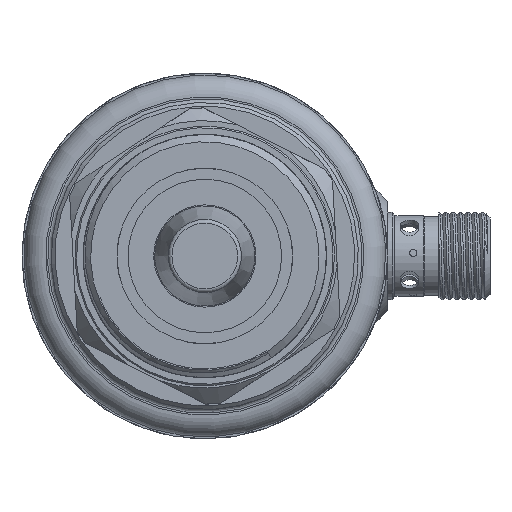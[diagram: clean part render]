
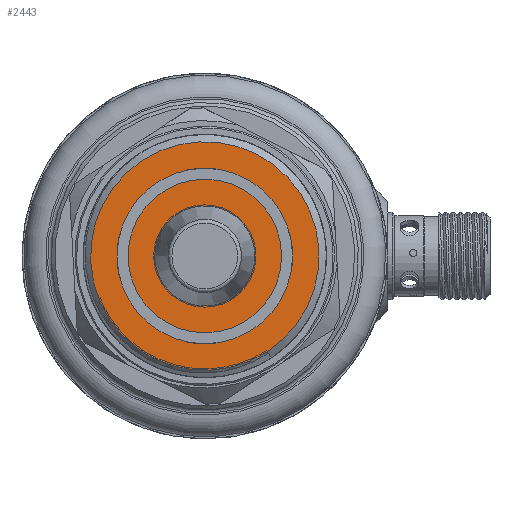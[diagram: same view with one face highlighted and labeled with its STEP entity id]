
A CAD part, front view. The second image highlights one B-rep face of the part: STEP entity #2443.
In plain terms, the highlighted planar face has unit normal (0, -1, 0) as drawn and (-1, 0, 0) by its records, which use the part's own axes.
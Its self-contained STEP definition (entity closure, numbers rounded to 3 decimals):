
#437 = AXIS2_PLACEMENT_3D ( 'NONE', #4142, #1845, #8392 ) ;
#467 = EDGE_LOOP ( 'NONE', ( #7078 ) ) ;
#474 = DIRECTION ( 'NONE',  ( 1., 0., 0. ) ) ;
#744 = CARTESIAN_POINT ( 'NONE',  ( 2.5, 0., -0.275 ) ) ;
#884 = DIRECTION ( 'NONE',  ( 0., 0., -1. ) ) ;
#1845 = DIRECTION ( 'NONE',  ( -1., 0., 0. ) ) ;
#2412 = AXIS2_PLACEMENT_3D ( 'NONE', #11471, #10423, #884 ) ;
#2443 = ADVANCED_FACE ( 'NONE', ( #10283, #3788 ), #10016, .F. ) ;
#3415 = CARTESIAN_POINT ( 'NONE',  ( 2.5, 0., -15.901 ) ) ;
#3788 = FACE_BOUND ( 'NONE', #7625, .T. ) ;
#4142 = CARTESIAN_POINT ( 'NONE',  ( 2.5, 0., -0.275 ) ) ;
#4974 = DIRECTION ( 'NONE',  ( 0., 0., -1. ) ) ;
#5982 = AXIS2_PLACEMENT_3D ( 'NONE', #744, #474, #4974 ) ;
#6369 = CARTESIAN_POINT ( 'NONE',  ( 2.5, 0., -7.125 ) ) ;
#6433 = CIRCLE ( 'NONE', #437, 15.626 ) ;
#7078 = ORIENTED_EDGE ( 'NONE', *, *, #9848, .T. ) ;
#7625 = EDGE_LOOP ( 'NONE', ( #12764 ) ) ;
#8392 = DIRECTION ( 'NONE',  ( 0., 0., -1. ) ) ;
#9848 = EDGE_CURVE ( 'NONE', #13010, #13010, #6433, .T. ) ;
#9910 = EDGE_CURVE ( 'NONE', #11744, #11744, #12667, .T. ) ;
#10016 = PLANE ( 'NONE',  #5982 ) ;
#10283 = FACE_OUTER_BOUND ( 'NONE', #467, .T. ) ;
#10423 = DIRECTION ( 'NONE',  ( 1., 0., 0. ) ) ;
#11471 = CARTESIAN_POINT ( 'NONE',  ( 2.5, 0., -0.275 ) ) ;
#11744 = VERTEX_POINT ( 'NONE', #6369 ) ;
#12667 = CIRCLE ( 'NONE', #2412, 6.85 ) ;
#12764 = ORIENTED_EDGE ( 'NONE', *, *, #9910, .T. ) ;
#13010 = VERTEX_POINT ( 'NONE', #3415 ) ;
